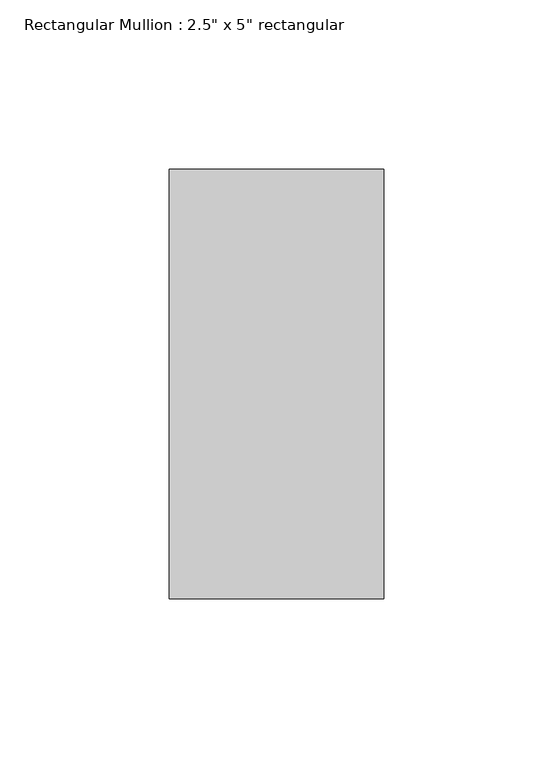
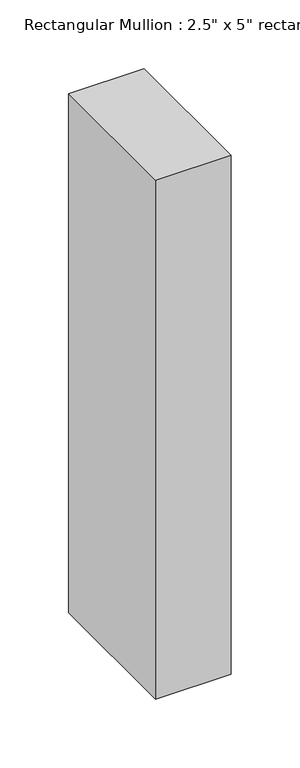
"""IFC4 building model written with IfcOpenShell, lengths in millimetres: member geometry."""

from ifc_helpers import new_model, si_unit, frame, origin, place, context, project, spatial, polyline, outline, extrude, source, transform, mapped, element, save


def member_a86ee493(model_context):
    return source(origin(), model_context, "Body", "SweptSolid", [
        extrude(outline(polyline([(0.0, 63.5), (0.0, -63.5), (-63.5, -63.5), (-63.5, 63.5), (0.0, 63.5)])), frame((0.0, 0.0, -461.1100469), z_axis=(0.0, 0.0, 1.0), x_axis=(1.0, 0.0, 0.0)), (0.0, 0.0, 1.0), 461.1100469),
    ])


if __name__ == "__main__":
    model = new_model("IFC4")
    model_context = context("Model", 3, world=origin())
    ifc_project = project(units=[si_unit("LENGTHUNIT", "METRE", prefix="MILLI")], contexts=[model_context])
    site = spatial("IfcSite", under=ifc_project)
    building = spatial("IfcBuilding", under=site)
    placement = place(None, origin())
    member_shape = member_a86ee493(model_context)
    element("IfcMember", 1, ObjectType="Rectangular Mullion : 2.5\" x 5\" rectangular", at=placement, inside=building, context=model_context, shape_type="MappedRepresentation", body=[
        mapped(member_shape, transform((0.0, 0.0, 0.0), x_axis=(1.0, 0.0, 0.0), y_axis=(0.0, 1.0, 0.0), z_axis=(0.0, 0.0, 1.0))),
    ])
    save(model, "model.ifc")
